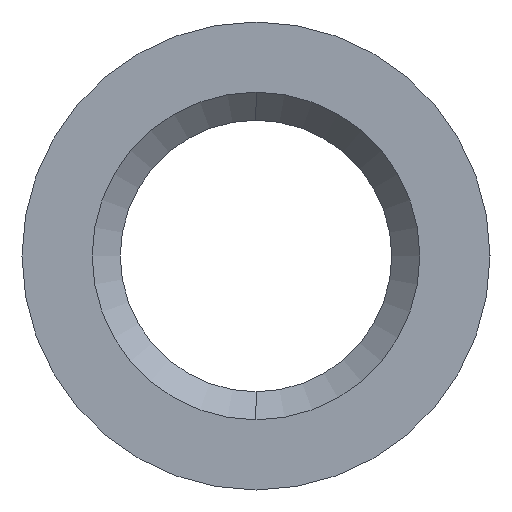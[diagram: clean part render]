
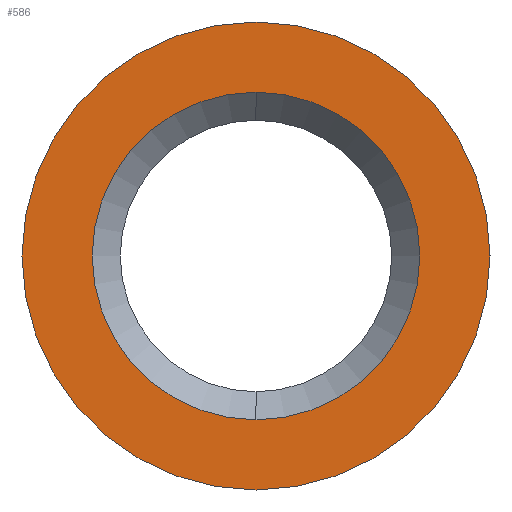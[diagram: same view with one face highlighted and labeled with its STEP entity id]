
A CAD part, left-side view. The second image highlights one B-rep face of the part: STEP entity #586.
In plain terms, the highlighted planar face has unit normal (-1, 0, 0).
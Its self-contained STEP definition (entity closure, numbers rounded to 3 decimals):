
#10 = CIRCLE ( 'NONE', #465, 2.5 ) ;
#23 = DIRECTION ( 'NONE',  ( 0., 0., 1. ) ) ;
#39 = CARTESIAN_POINT ( 'NONE',  ( -6.3, 0., -2.5 ) ) ;
#68 = ORIENTED_EDGE ( 'NONE', *, *, #482, .F. ) ;
#81 = VERTEX_POINT ( 'NONE', #888 ) ;
#125 = EDGE_CURVE ( 'NONE', #81, #310, #582, .T. ) ;
#136 = AXIS2_PLACEMENT_3D ( 'NONE', #171, #471, #23 ) ;
#151 = CARTESIAN_POINT ( 'NONE',  ( -6.3, 0., 0. ) ) ;
#167 = FACE_BOUND ( 'NONE', #387, .T. ) ;
#171 = CARTESIAN_POINT ( 'NONE',  ( -6.3, 2.5, 0. ) ) ;
#178 = AXIS2_PLACEMENT_3D ( 'NONE', #875, #750, #597 ) ;
#182 = EDGE_CURVE ( 'NONE', #310, #81, #270, .T. ) ;
#223 = AXIS2_PLACEMENT_3D ( 'NONE', #830, #534, #530 ) ;
#235 = ORIENTED_EDGE ( 'NONE', *, *, #125, .T. ) ;
#244 = FACE_OUTER_BOUND ( 'NONE', #349, .T. ) ;
#257 = AXIS2_PLACEMENT_3D ( 'NONE', #573, #437, #722 ) ;
#270 = CIRCLE ( 'NONE', #223, 1.75 ) ;
#295 = ORIENTED_EDGE ( 'NONE', *, *, #182, .T. ) ;
#310 = VERTEX_POINT ( 'NONE', #618 ) ;
#349 = EDGE_LOOP ( 'NONE', ( #663, #68 ) ) ;
#352 = DIRECTION ( 'NONE',  ( 1., 0., 0. ) ) ;
#387 = EDGE_LOOP ( 'NONE', ( #295, #235 ) ) ;
#437 = DIRECTION ( 'NONE',  ( 1., 0., 0. ) ) ;
#440 = DIRECTION ( 'NONE',  ( 0., 0., -1. ) ) ;
#456 = EDGE_CURVE ( 'NONE', #637, #651, #10, .T. ) ;
#465 = AXIS2_PLACEMENT_3D ( 'NONE', #151, #352, #440 ) ;
#471 = DIRECTION ( 'NONE',  ( -1., 0., 0. ) ) ;
#482 = EDGE_CURVE ( 'NONE', #651, #637, #491, .T. ) ;
#491 = CIRCLE ( 'NONE', #257, 2.5 ) ;
#530 = DIRECTION ( 'NONE',  ( 0., 0., 1. ) ) ;
#534 = DIRECTION ( 'NONE',  ( 1., 0., 0. ) ) ;
#573 = CARTESIAN_POINT ( 'NONE',  ( -6.3, 0., 0. ) ) ;
#582 = CIRCLE ( 'NONE', #178, 1.75 ) ;
#586 = ADVANCED_FACE ( 'NONE', ( #167, #244 ), #893, .T. ) ;
#597 = DIRECTION ( 'NONE',  ( 0., 0., 1. ) ) ;
#600 = CARTESIAN_POINT ( 'NONE',  ( -6.3, 0., 2.5 ) ) ;
#618 = CARTESIAN_POINT ( 'NONE',  ( -6.3, 0., 1.75 ) ) ;
#637 = VERTEX_POINT ( 'NONE', #39 ) ;
#651 = VERTEX_POINT ( 'NONE', #600 ) ;
#663 = ORIENTED_EDGE ( 'NONE', *, *, #456, .F. ) ;
#722 = DIRECTION ( 'NONE',  ( 0., 0., -1. ) ) ;
#750 = DIRECTION ( 'NONE',  ( 1., 0., 0. ) ) ;
#830 = CARTESIAN_POINT ( 'NONE',  ( -6.3, 0., 0. ) ) ;
#875 = CARTESIAN_POINT ( 'NONE',  ( -6.3, 0., 0. ) ) ;
#888 = CARTESIAN_POINT ( 'NONE',  ( -6.3, 0., -1.75 ) ) ;
#893 = PLANE ( 'NONE',  #136 ) ;
